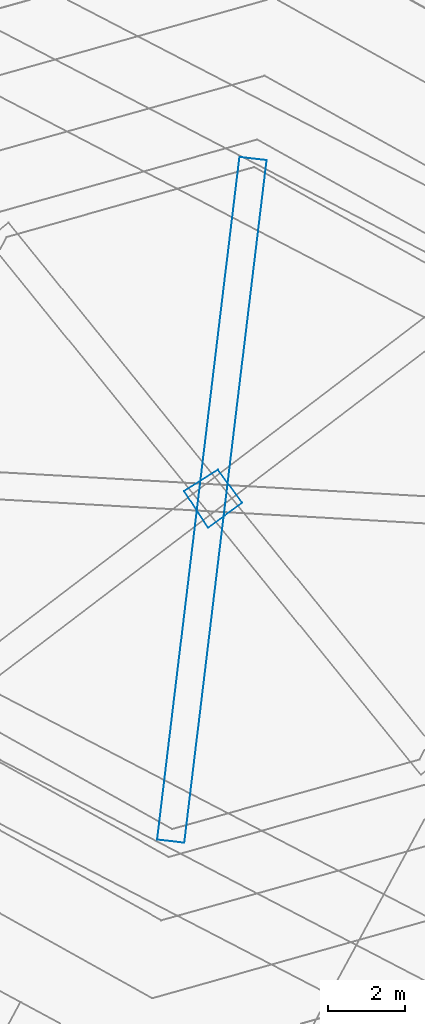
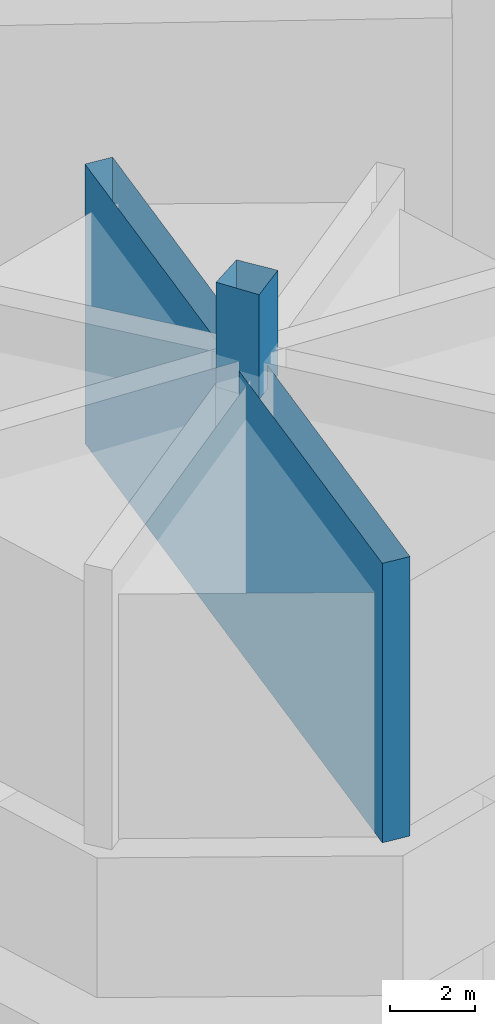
# Not in any storey, part 27 of 80: 2 walls.
"""IFC4 building model written with IfcOpenShell, lengths in metres."""

from ifc_helpers import new_model, si_unit, frame, origin_with_axes, place, context, subcontext, project, spatial, polygons, element, save


model = new_model("IFC4")

# Units and contexts
model_context = context("Model", 3, precision=1e-05, world=origin_with_axes())
body_context = subcontext(model_context, "Body", "Model", "MODEL_VIEW")
ifc_project = project(units=[si_unit("AREAUNIT", "SQUARE_METRE"), si_unit("LENGTHUNIT", "METRE")], contexts=[model_context])

# Sites, building
site_1_placement = place(None, origin_with_axes())
site_1 = spatial("IfcSite", under=ifc_project, at=site_1_placement, Name="Topoexport Site")
site_2_placement = place(site_1_placement, origin_with_axes())
site_2 = spatial("IfcSite", under=site_1, at=site_2_placement, Name="TPX_BATIMENTS")
building_1_placement = place(site_2_placement, frame((205.5562085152, 290.3465658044, 267.1773750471), z_axis=(0.0, 0.0, 1.0), x_axis=(1.0, 0.0, 0.0)))
building_1 = spatial("IfcBuilding", under=site_2, at=building_1_placement, Name="Batiment 116", CompositionType="ELEMENT")

# Wall
wall_1_placement = place(None, frame((205.5562085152, 290.3465658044, 267.1773750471), z_axis=(0.0, 0.0, 1.0), x_axis=(1.0, 0.0, 0.0)))
element("IfcWall", 1, at=wall_1_placement, inside=building_1, Name="Mur 0", context=body_context, shape_type="Tessellation", body=[
    polygons([(0.0, 0.0, 0.0), (0.6187999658, -0.947598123, 0.0), (1.4976682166, -0.304548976, 0.0), (0.87146067, 0.5541448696, 0.0), (0.0, 0.0, 3.0), (0.6187999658, -0.947598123, 3.0), (1.4976682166, -0.304548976, 3.0), (0.87146067, 0.5541448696, 3.0)], [[[6, 5, 2]], [[2, 5, 1]], [[7, 6, 3]], [[3, 6, 2]], [[5, 8, 1]], [[1, 8, 4]], [[8, 7, 4]], [[4, 7, 3]]]),
])

# Building
building_2_placement = place(site_2_placement, frame((204.8589467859, 281.3456288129, 259.8320280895), z_axis=(0.0, 0.0, 1.0), x_axis=(1.0, 0.0, 0.0)))
building_2 = spatial("IfcBuilding", under=site_2, at=building_2_placement, Name="Batiment 117", CompositionType="ELEMENT")

# Wall
wall_2_placement = place(None, frame((204.8589467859, 281.3456288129, 259.8320280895), z_axis=(0.0, 0.0, 1.0), x_axis=(1.0, 0.0, 0.0)))
element("IfcWall", 2, at=wall_2_placement, inside=building_2, Name="Mur 0", context=body_context, shape_type="Tessellation", body=[
    polygons([(0.0, 0.0, 0.0), (0.7015744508, -0.0806595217, 0.0), (2.8264731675, 17.5411295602, 0.0), (2.1249003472, 17.6217888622, 0.0), (0.0, 0.0, 8.0), (0.7015744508, -0.0806595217, 8.0), (2.8264731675, 17.5411295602, 8.0), (2.1249003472, 17.6217888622, 8.0)], [[[6, 5, 2]], [[2, 5, 1]], [[7, 6, 3]], [[3, 6, 2]], [[5, 8, 1]], [[1, 8, 4]], [[8, 7, 4]], [[4, 7, 3]]]),
])

save(model, "model.ifc")
